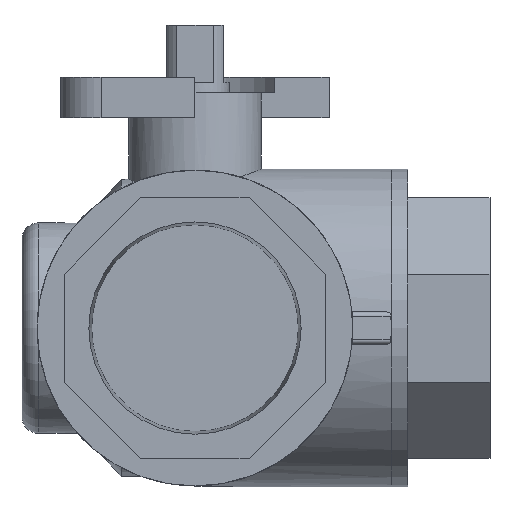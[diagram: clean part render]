
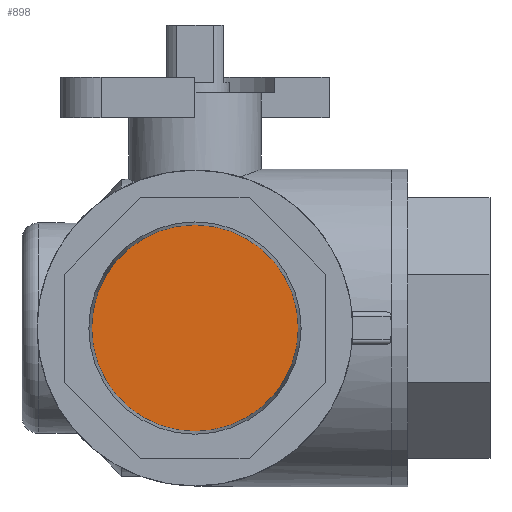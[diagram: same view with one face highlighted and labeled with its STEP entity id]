
A CAD part, left-side view. The second image highlights one B-rep face of the part: STEP entity #898.
In plain terms, the highlighted free-form (B-spline) face has degree [1, 1] with [2, 2] control points.
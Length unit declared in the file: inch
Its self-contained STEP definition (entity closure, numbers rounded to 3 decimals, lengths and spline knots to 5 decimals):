
#882=CARTESIAN_POINT('',(0.6809,0.77041,1.74292));
#883=CARTESIAN_POINT('',(0.6809,-0.77042,1.74292));
#884=CARTESIAN_POINT('',(0.6809,0.77041,0.20209));
#885=CARTESIAN_POINT('',(0.6809,-0.77042,0.20209));
#886=B_SPLINE_SURFACE_WITH_KNOTS('',1,1,((#882,#884),(#883,#885)),.UNSPECIFIED.,.F.,.F.,.U.,(2,2),(2,2),(0.0,1.54083),(0.0,1.54083),.UNSPECIFIED.);
#887=CARTESIAN_POINT('',(0.6809,0.77041,0.9725));
#888=VERTEX_POINT('',#887);
#889=CARTESIAN_POINT('',(0.6809,0.,0.9725));
#890=DIRECTION('',(1.0,0.0,0.0));
#891=DIRECTION('',(0.0,1.0,0.0));
#892=AXIS2_PLACEMENT_3D('',#889,#890,#891);
#893=CIRCLE('',#892,0.77042);
#894=EDGE_CURVE('',#888,#888,#893,.T.);
#895=ORIENTED_EDGE('',*,*,#894,.F.);
#896=EDGE_LOOP('',(#895));
#897=FACE_OUTER_BOUND('',#896,.T.);
#898=ADVANCED_FACE('',(#897),#886,.F.);
